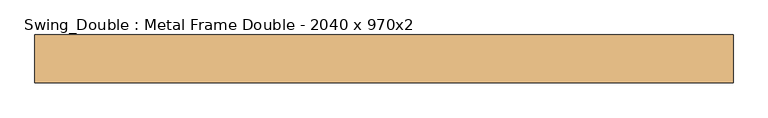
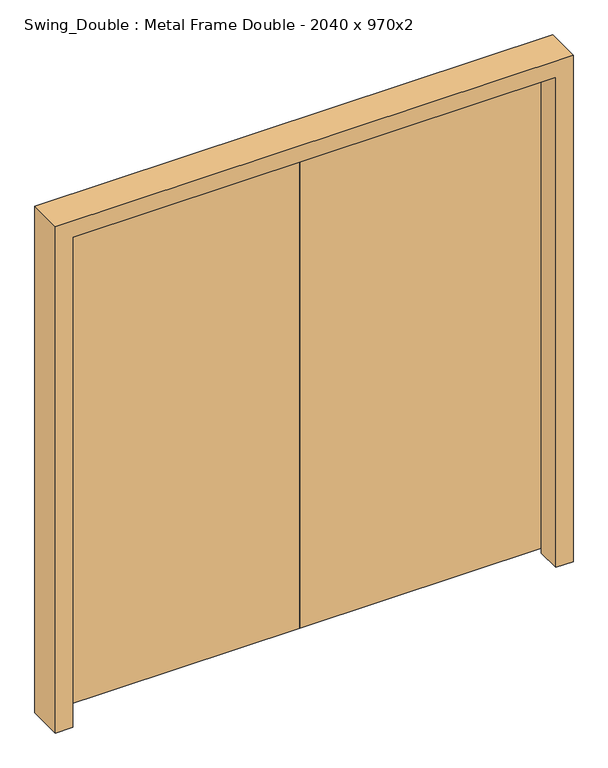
"""IFC4 building model written with IfcOpenShell, lengths in millimetres: door geometry, Swing_Double : Metal Frame Double - 2040 x 970x2."""

import ifcopenshell
import ifcopenshell.guid

model = None  # the IFC model being written
_history = None  # IfcOwnerHistory: only IFC2X3 demands one
_inside = {}  # id of a spatial element -> (the spatial element, [elements in it])
_under = {}  # id of a project, library or spatial element -> (it, [spatial elements below it])
_declared = {}  # id of a project -> (the project, [libraries it declares])
_typed = {}  # id of a type object -> (the type object, [elements of that type])
_made_of = {}  # id of a material, layer set ... -> (it, [elements and type objects made of it])


def new_model(schema):
    """Start an empty IFC model of exactly this schema.

    Asked for "IFC4X3", IfcOpenShell would pick the latest addendum, in which some entities
    have other attributes; the version numbers below select the first issue.
    IFC2X3 requires an IfcOwnerHistory on every rooted entity: one is made here for all.
    """
    global model, _history
    if schema == "IFC4X3":
        model = ifcopenshell.file(schema_version=(4, 3, 0, 0))
    else:
        model = ifcopenshell.file(schema=schema)
    _inside.clear()
    _under.clear()
    _declared.clear()
    _typed.clear()
    _made_of.clear()
    _history = None
    if model.schema == "IFC2X3":
        org = make("IfcOrganization", Name="unknown")
        user = make(
            "IfcPersonAndOrganization",
            ThePerson=make("IfcPerson", FamilyName="unknown"),
            TheOrganization=org,
        )
        app = make(
            "IfcApplication",
            ApplicationDeveloper=org,
            Version="unknown",
            ApplicationFullName="unknown",
            ApplicationIdentifier="unknown",
        )
        _history = make(
            "IfcOwnerHistory",
            OwningUser=user,
            OwningApplication=app,
            ChangeAction="ADDED",
            CreationDate=0,
        )
    return model


def make(cls, **values):
    """One entity of the class cls with the attributes given. An attribute that is None is left unset."""
    return model.create_entity(
        cls, **{name: value for name, value in values.items() if value is not None}
    )


def rooted(cls, **values):
    """An entity with a GlobalId (a new one), such as an element, a storey or a relation."""
    return make(cls, GlobalId=ifcopenshell.guid.new(), OwnerHistory=_history, **values)


def si_unit(unit_type, name, prefix=None):
    """IfcSIUnit, for example si_unit("LENGTHUNIT", "METRE", prefix="MILLI")."""
    return make("IfcSIUnit", UnitType=unit_type, Prefix=prefix, Name=name)


def assignment(units):
    """IfcUnitAssignment: the units of a project."""
    return None if units is None else make("IfcUnitAssignment", Units=units)


def point(xyz):
    """IfcCartesianPoint."""
    return None if xyz is None else make("IfcCartesianPoint", Coordinates=xyz)


def direction(xyz):
    """IfcDirection."""
    return None if xyz is None else make("IfcDirection", DirectionRatios=xyz)


def frame(location, z_axis=None, x_axis=None):
    """IfcAxis2Placement3D, a coordinate frame: its origin and axes. An axis left out is left unset."""
    return make(
        "IfcAxis2Placement3D",
        Location=point(location),
        Axis=direction(z_axis),
        RefDirection=direction(x_axis),
    )


def origin():
    """The frame at (0, 0, 0) with its axes left unset."""
    return frame((0.0, 0.0, 0.0))


def place(relative_to, where):
    """IfcLocalPlacement: puts the frame where relative to a parent placement (None: the world)."""
    return make(
        "IfcLocalPlacement", PlacementRelTo=relative_to, RelativePlacement=where
    )


def context(
    kind, dimensions, precision=None, world=None, true_north=None, identifier=None
):
    """IfcGeometricRepresentationContext, for example the 3D "Model" context."""
    return make(
        "IfcGeometricRepresentationContext",
        ContextIdentifier=identifier,
        ContextType=kind,
        CoordinateSpaceDimension=dimensions,
        Precision=precision,
        WorldCoordinateSystem=world,
        TrueNorth=true_north,
    )


def project(units=None, contexts=None):
    """IfcProject with its units and contexts."""
    return rooted(
        "IfcProject",
        Name="project",
        RepresentationContexts=contexts,
        UnitsInContext=assignment(units),
    )


def spatial(cls, under=None, at=None, **own):
    """A site, building, storey or space (cls), placed at a placement, below another one or the project."""
    s = rooted(cls, ObjectPlacement=at, **own)
    if under is not None:
        _under.setdefault(under.id(), (under, []))[1].append(s)
    return s


def polyline(points):
    """IfcPolyline through the points."""
    return make("IfcPolyline", Points=[point(p) for p in points])


def outline(outer, holes=None, kind="AREA"):
    """IfcArbitraryClosedProfileDef: a profile drawn as a closed curve; with holes, ...WithVoids."""
    if holes is None:
        return make("IfcArbitraryClosedProfileDef", ProfileType=kind, OuterCurve=outer)
    return make(
        "IfcArbitraryProfileDefWithVoids",
        ProfileType=kind,
        OuterCurve=outer,
        InnerCurves=holes,
    )


def extrude(swept, where, along, depth):
    """IfcExtrudedAreaSolid: the profile swept, set in the frame where, extruded along a direction by depth."""
    return make(
        "IfcExtrudedAreaSolid",
        SweptArea=swept,
        Position=where,
        ExtrudedDirection=direction(along),
        Depth=depth,
    )


def faces_of(points, faces, orient=None, outer=None):
    """IfcFace entities. A face is a list of loops; a loop is a list of indices into points, from 0.

    orient and outer hold one flag for each loop. By default every Orientation is true, the
    first loop of a face is its IfcFaceOuterBound and the others are IfcFaceBound.
    """
    made = []
    for i, loops in enumerate(faces):
        bounds = []
        for j, loop in enumerate(loops):
            is_outer = j == 0 if outer is None else outer[i][j]
            bounds.append(
                make(
                    "IfcFaceOuterBound" if is_outer else "IfcFaceBound",
                    Bound=make("IfcPolyLoop", Polygon=[points[k] for k in loop]),
                    Orientation=True if orient is None else orient[i][j],
                )
            )
        made.append(make("IfcFace", Bounds=bounds))
    return made


def faceted_brep(points, faces, orient=None, outer=None, voids=None):
    """IfcFacetedBrep: a solid bounded by flat faces; with voids (closed shells), ...WithVoids."""
    shared = [point(p) for p in points]
    hull = make("IfcClosedShell", CfsFaces=faces_of(shared, faces, orient, outer))
    if voids is None:
        return make("IfcFacetedBrep", Outer=hull)
    return make(
        "IfcFacetedBrepWithVoids",
        Outer=hull,
        Voids=[
            make(cls, CfsFaces=faces_of(shared, fs, o, b)) for cls, fs, o, b in voids
        ],
    )


def shape(context_of_items, identifier, shape_type, items):
    """IfcShapeRepresentation: the items that make up one representation, for example the "Body"."""
    return make(
        "IfcShapeRepresentation",
        ContextOfItems=context_of_items,
        RepresentationIdentifier=identifier,
        RepresentationType=shape_type,
        Items=items,
    )


def source(mapping_origin, context_of_items, identifier, shape_type, items):
    """IfcRepresentationMap: a shape defined once, which mapped items show again and again."""
    return make(
        "IfcRepresentationMap",
        MappingOrigin=mapping_origin,
        MappedRepresentation=shape(context_of_items, identifier, shape_type, items),
    )


def transform(
    local_origin,
    x_axis=None,
    y_axis=None,
    z_axis=None,
    scale=None,
    scale2=None,
    scale3=None,
    uniform=True,
):
    """IfcCartesianTransformationOperator3D, or its non-uniform kind. x_axis, y_axis, z_axis: its Axis1, 2, 3."""
    if uniform:
        return make(
            "IfcCartesianTransformationOperator3D",
            Axis1=direction(x_axis),
            Axis2=direction(y_axis),
            LocalOrigin=point(local_origin),
            Scale=scale,
            Axis3=direction(z_axis),
        )
    return make(
        "IfcCartesianTransformationOperator3DnonUniform",
        Axis1=direction(x_axis),
        Axis2=direction(y_axis),
        LocalOrigin=point(local_origin),
        Scale=scale,
        Axis3=direction(z_axis),
        Scale2=scale2,
        Scale3=scale3,
    )


def mapped(mapping_source, mapping_target):
    """IfcMappedItem: shows the shape of a source again, moved by a transform."""
    return make(
        "IfcMappedItem", MappingSource=mapping_source, MappingTarget=mapping_target
    )


def made_of(thing, what):
    """Note that an element or type object is made of a material, layer set ...; save() writes the relation."""
    if what is not None:
        _made_of.setdefault(what.id(), (what, []))[1].append(thing)
    return thing


def element(
    cls,
    number,
    at=None,
    inside=None,
    cuts=None,
    type_object=None,
    material=None,
    context=None,
    identifier="Body",
    shape_type=None,
    held_by="IfcProductDefinitionShape",
    body=None,
    shapes=None,
    **own,
):
    """One element of the class cls, such as IfcWall. Its Tag is "e" and its number.

    at: its placement. inside: the storey or other place that contains it. cuts: it is an
    opening in that element (IfcRelVoidsElement). A single representation is given by context,
    identifier, shape_type and body (its items); several are given by shapes. held_by: the class
    of the entity that holds the representations. save() writes the other relations.
    """
    e = rooted(cls, Tag="e%d" % number, ObjectPlacement=at, **own)
    if body is not None:
        shapes = [shape(context, identifier, shape_type, body)]
    if shapes is not None:
        e.Representation = make(held_by, Representations=shapes)
    if inside is not None:
        _inside.setdefault(inside.id(), (inside, []))[1].append(e)
    if cuts is not None:
        rooted(
            "IfcRelVoidsElement", RelatingBuildingElement=cuts, RelatedOpeningElement=e
        )
    if type_object is not None:
        _typed.setdefault(type_object.id(), (type_object, []))[1].append(e)
    return made_of(e, material)


def aggregate(whole, parts):
    """IfcRelAggregates: a whole, such as a stair, and the parts it consists of."""
    return rooted("IfcRelAggregates", RelatingObject=whole, RelatedObjects=parts)


def save(model, path):
    """Write the relations noted so far, then the file.

    IfcRelAggregates (storeys below a building ...), IfcRelContainedInSpatialStructure (elements
    in a storey), IfcRelDefinesByType, IfcRelAssociatesMaterial and IfcRelDeclares: one each for
    every whole, place, type object, material and project.
    """
    for whole, parts in _under.values():
        aggregate(whole, parts)
    for where, things in _inside.values():
        rooted(
            "IfcRelContainedInSpatialStructure",
            RelatedElements=things,
            RelatingStructure=where,
        )
    for kind, things in _typed.values():
        rooted("IfcRelDefinesByType", RelatedObjects=things, RelatingType=kind)
    for what, things in _made_of.values():
        rooted("IfcRelAssociatesMaterial", RelatedObjects=things, RelatingMaterial=what)
    for by, libraries in _declared.values():
        rooted("IfcRelDeclares", RelatingContext=by, RelatedDefinitions=libraries)
    model.write(path)


def swing_double_metal_frame_double_2040_x_970x2_f76d8223(model_context):
    return source(origin(), model_context, "Body", "SolidModel", [
        extrude(outline(polyline([(-211.5, 70.0), (758.5, 70.0), (758.5, 30.0), (-211.5, 30.0), (-211.5, 70.0)])), frame((0.0, 0.0, 20.0), z_axis=(0.0, 0.0, 1.0), x_axis=(1.0, 0.0, 0.0)), (0.0, 0.0, 1.0), 2040.0),
        extrude(outline(polyline([(-211.5, 70.0), (-211.5, 30.0), (-1181.5, 30.0), (-1181.5, 70.0), (-211.5, 70.0)])), frame((0.0, 0.0, 20.0), z_axis=(0.0, 0.0, 1.0), x_axis=(1.0, 0.0, 0.0)), (0.0, 0.0, 1.0), 2040.0),
        faceted_brep([(808.5, -70.0, 0.0), (740.5, -70.0, 0.0), (740.5, 28.0, 0.0), (760.5, 28.0, 0.0), (760.5, 70.0, 0.0), (808.5, 70.0, 0.0), (808.5, -70.0, 2110.0), (-1231.5, -70.0, 2110.0), (-1231.5, -70.0, 0.0), (-1163.5, -70.0, 0.0), (-1163.5, -70.0, 2042.0), (740.5, -70.0, 2042.0), (740.5, 28.0, 2042.0), (-1163.5, 28.0, 2042.0), (-1163.5, 28.0, 0.0), (-1183.5, 28.0, 0.0), (-1183.5, 28.0, 2062.0), (760.5, 28.0, 2062.0), (760.5, 70.0, 2062.0), (-1183.5, 70.0, 2062.0), (-1183.5, 70.0, 0.0), (-1231.5, 70.0, 0.0), (-1231.5, 70.0, 2110.0), (808.5, 70.0, 2110.0)], [[[0, 1, 2, 3, 4, 5]], [[1, 0, 6, 7, 8, 9, 10, 11]], [[2, 1, 11, 12]], [[3, 2, 12, 13, 14, 15, 16, 17]], [[4, 3, 17, 18]], [[5, 4, 18, 19, 20, 21, 22, 23]], [[0, 5, 23, 6]], [[19, 16, 15, 20]], [[8, 21, 20, 15, 14, 9]], [[7, 22, 21, 8]], [[13, 10, 9, 14]], [[6, 23, 22, 7]], [[18, 17, 16, 19]], [[12, 11, 10, 13]]]),
    ])


if __name__ == "__main__":
    model = new_model("IFC4")
    model_context = context("Model", 3, world=origin())
    ifc_project = project(units=[si_unit("LENGTHUNIT", "METRE", prefix="MILLI")], contexts=[model_context])
    site = spatial("IfcSite", under=ifc_project)
    building = spatial("IfcBuilding", under=site)
    placement = place(None, origin())
    swing_double_metal_frame_double_2040_x_970x2_shape = swing_double_metal_frame_double_2040_x_970x2_f76d8223(model_context)
    element("IfcDoor", 1, ObjectType="Swing_Double : Metal Frame Double - 2040 x 970x2", at=placement, inside=building, context=model_context, shape_type="MappedRepresentation", body=[
        mapped(swing_double_metal_frame_double_2040_x_970x2_shape, transform((0.0, 0.0, 0.0), x_axis=(1.0, 0.0, 0.0), y_axis=(0.0, 1.0, 0.0), z_axis=(0.0, 0.0, 1.0))),
    ])
    save(model, "model.ifc")
